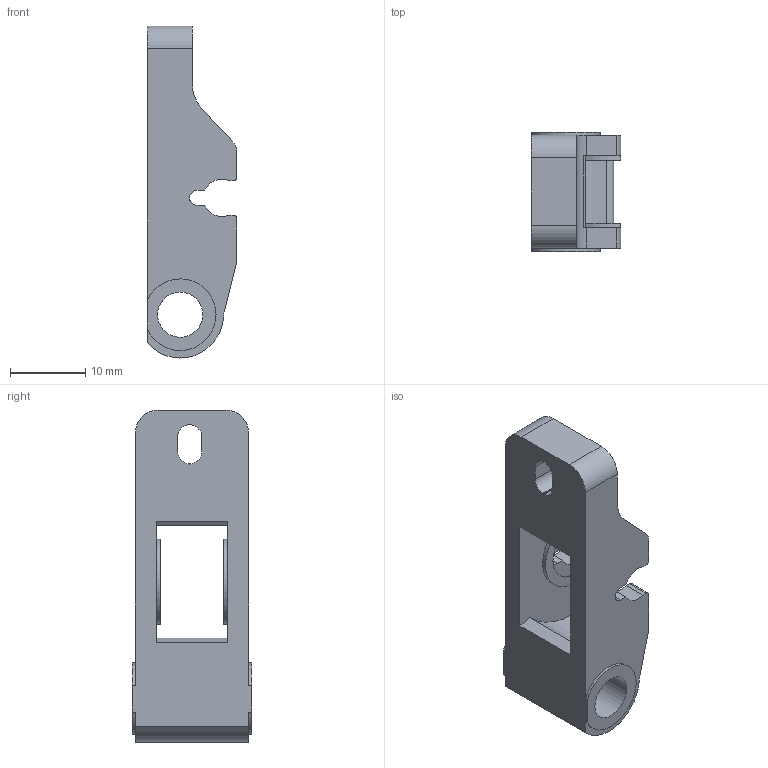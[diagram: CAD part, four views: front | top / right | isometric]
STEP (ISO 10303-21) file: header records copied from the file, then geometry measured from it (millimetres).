
FILE_DESCRIPTION(/* description */ (''),/* implementation_level */ '2;1');
FILE_NAME(/* name */ 'C:/Users/Martin/Documents/icarus-2.1/icarus-2-current-step-files/5-optional-parts/tbg-lite-short-arm-flat-open.step',/* time_stamp */ '2022-08-22T19:23:50+02:00',/* author */ (''),/* organization */ (''),/* preprocessor_version */ 'ST-DEVELOPER v19',/* originating_system */ 'Autodesk Translation Framework v11.7.0.108',/* authorisation */ '');
FILE_SCHEMA (('AUTOMOTIVE_DESIGN { 1 0 10303 214 3 1 1 }'));
Length unit declared in the file: millimetre
Products named in the file (1): mount-rapido
Bounding box: 11.92 x 15.8 x 44.05 mm (x, y, z)
Volume: 3623.7 mm3; surface area: 2957.4 mm2
Topology: 1 solids, 1 shells, 69 faces, 204 edges, 136 vertices
Faces by surface type: cylinder 35, plane 34
Full cylindrical faces by diameter (mm): 6 x1
Entity records: 2382 total; most frequent: DIRECTION 420, CARTESIAN_POINT 410, ORIENTED_EDGE 408, EDGE_CURVE 204, AXIS2_PLACEMENT_3D 146, VERTEX_POINT 136, LINE 128, VECTOR 128
